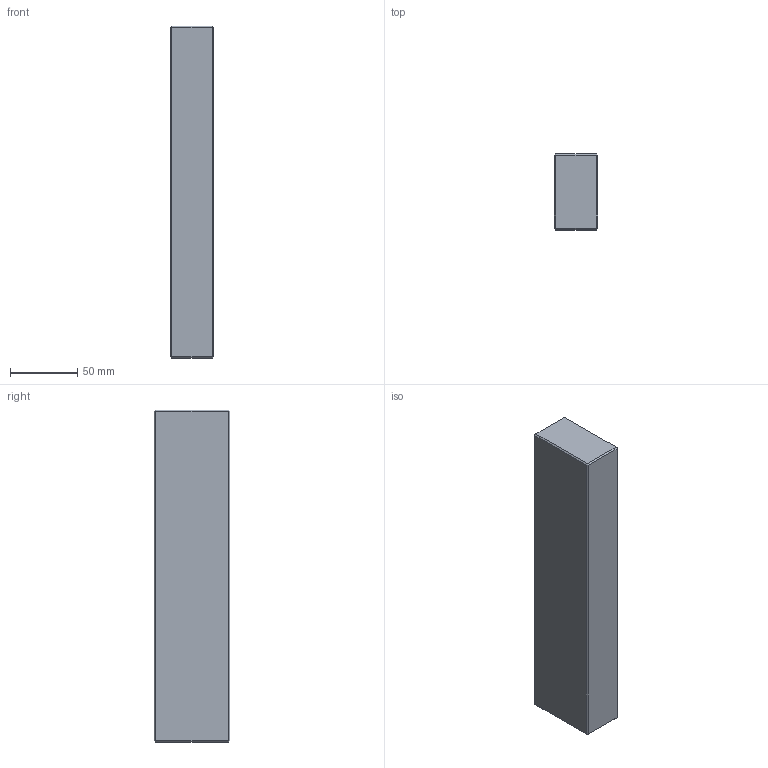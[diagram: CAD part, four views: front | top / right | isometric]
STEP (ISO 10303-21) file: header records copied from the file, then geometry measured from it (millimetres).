
FILE_DESCRIPTION (( 'STEP AP214' ), '1' );
FILE_NAME ('ESP-P-156X246x56.STEP', '2020-04-08T10:13:06', ( 'August' ), ( '' ), 'SwSTEP 2.0', 'SolidWorks 2018', '' );
FILE_SCHEMA (( 'AUTOMOTIVE_DESIGN' ));
Length unit declared in the file: millimetre
Products named in the file (1): ESP-P-156X246x56
Bounding box: 32 x 56 x 246 mm (x, y, z)
Volume: 440169.3 mm3; surface area: 46094.4 mm2
Topology: 1 solids, 1 shells, 26 faces, 48 edges, 24 vertices
Faces by surface type: plane 26
Entity records: 634 total; most frequent: DIRECTION 102, CARTESIAN_POINT 99, ORIENTED_EDGE 96, VECTOR 48, LINE 48, EDGE_CURVE 48, AXIS2_PLACEMENT_3D 27, EDGE_LOOP 26
